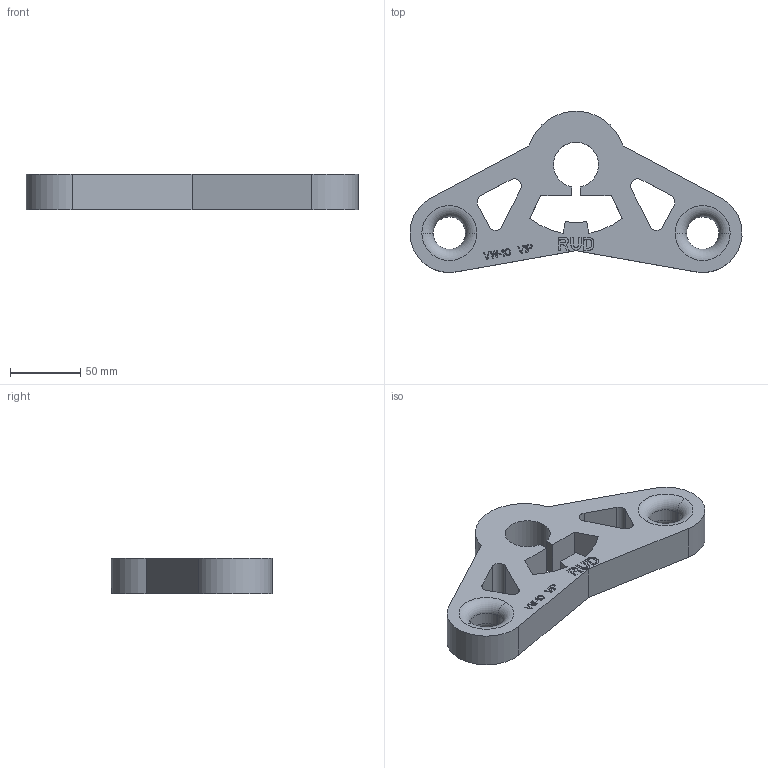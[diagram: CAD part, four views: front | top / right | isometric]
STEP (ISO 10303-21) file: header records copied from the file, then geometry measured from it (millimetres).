
FILE_DESCRIPTION((''),'2;1');
FILE_NAME('001-M34651-P-1','2015-05-18T',('Andreas.Wendler'),(''),'PRO/ENGINEER BY PARAMETRIC TECHNOLOGY CORPORATION, 2010140','PRO/ENGINEER BY PARAMETRIC TECHNOLOGY CORPORATION, 2010140','');
FILE_SCHEMA(('CONFIG_CONTROL_DESIGN'));
Length unit declared in the file: millimetre
Products named in the file (1): 001-M34651-P-1
Bounding box: 235.81 x 114.37 x 25 mm (x, y, z)
Volume: 309100 mm3; surface area: 54392.3 mm2
Topology: 1 solids, 1 shells, 206 faces, 565 edges, 374 vertices
Faces by surface type: plane 172, cylinder 26, torus 8
Entity records: 6511 total; most frequent: CARTESIAN_POINT 1145, ORIENTED_EDGE 1130, DIRECTION 1045, EDGE_CURVE 565, VECTOR 497, LINE 497, VERTEX_POINT 374, AXIS2_PLACEMENT_3D 274
